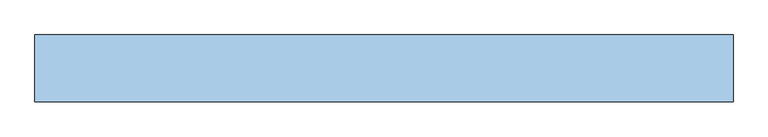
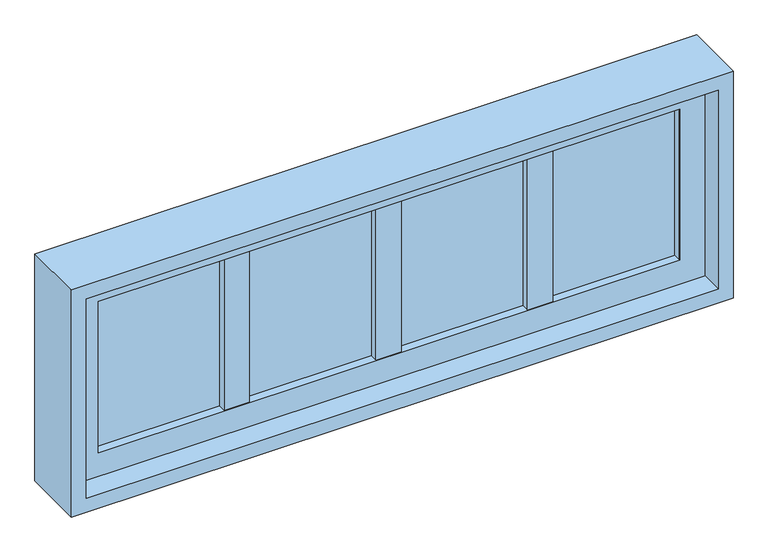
"""IFC4 building model written with IfcOpenShell, lengths in millimetres: window geometry, Janela maxim-ar - PARAMÉTRICA : .4 PAINÉIS - 1.50X0.60 3."""

from ifc_helpers import new_model, si_unit, frame, origin, place, context, project, spatial, polyline, outline, extrude, source, transform, mapped, element, save


def window_3d062184(model_context):
    return source(origin(), model_context, "Body", "SweptSolid", [
        extrude(outline(polyline([(390.0, 18.0), (390.0, -18.0414253), (330.0, -18.0414253), (330.0, 18.0), (390.0, 18.0)])), frame((0.0, 0.0, 835.0), z_axis=(0.0, 0.0, 1.0), x_axis=(1.0, 0.0, 0.0)), (0.0, 0.0, 1.0), 500.0),
        extrude(outline(polyline([(30.0, 18.0), (30.0, -18.0414253), (-30.0, -18.0414253), (-30.0, 18.0), (30.0, 18.0)])), frame((0.0, 0.0, 835.0), z_axis=(0.0, 0.0, 1.0), x_axis=(1.0, 0.0, 0.0)), (0.0, 0.0, 1.0), 500.0),
        extrude(outline(polyline([(-330.0, 18.0), (-330.0, -18.0414253), (-390.0, -18.0414253), (-390.0, 18.0), (-330.0, 18.0)])), frame((0.0, 0.0, 835.0), z_axis=(0.0, 0.0, 1.0), x_axis=(1.0, 0.0, 0.0)), (0.0, 0.0, 1.0), 500.0),
        extrude(outline(polyline([(750.0, 18.0), (750.0, -18.0414253), (690.0, -18.0414253), (690.0, 18.0), (750.0, 18.0)])), frame((0.0, 0.0, 835.0), z_axis=(0.0, 0.0, 1.0), x_axis=(1.0, 0.0, 0.0)), (0.0, 0.0, 1.0), 500.0),
        extrude(outline(polyline([(-690.0, 18.0), (-690.0, -18.0414253), (-750.0, -18.0414253), (-750.0, 18.0), (-690.0, 18.0)])), frame((0.0, 0.0, 835.0), z_axis=(0.0, 0.0, 1.0), x_axis=(1.0, 0.0, 0.0)), (0.0, 0.0, 1.0), 500.0),
        extrude(outline(polyline([(835.0, -750.0), (835.0, 750.0), (1335.0, 750.0), (1335.0, -750.0), (835.0, -750.0)]), holes=[polyline([(1275.0, -690.0), (1275.0, 690.0), (895.0, 690.0), (895.0, -690.0), (1275.0, -690.0)])]), frame((0.0, -20.0, 0.0), z_axis=(0.0, 1.0, 0.0), x_axis=(0.0, 0.0, 1.0)), (0.0, 0.0, 1.0), 40.0),
        extrude(outline(polyline([(800.0, -785.0), (800.0, 785.0), (1370.0, 785.0), (1370.0, -785.0), (800.0, -785.0)]), holes=[polyline([(1335.0, -750.0), (1335.0, 750.0), (835.0, 750.0), (835.0, -750.0), (1335.0, -750.0)])]), frame((0.0, -75.0, 0.0), z_axis=(0.0, 1.0, 0.0), x_axis=(0.0, 0.0, 1.0)), (0.0, 0.0, 1.0), 150.0),
        extrude(outline(polyline([(690.0, 15.0), (690.0, 0.0), (-690.0, 0.0), (-690.0, 15.0), (690.0, 15.0)])), frame((0.0, 0.0, 895.0), z_axis=(0.0, 0.0, 1.0), x_axis=(1.0, 0.0, 0.0)), (0.0, 0.0, 1.0), 380.0),
    ])


if __name__ == "__main__":
    model = new_model("IFC4")
    model_context = context("Model", 3, world=origin())
    ifc_project = project(units=[si_unit("LENGTHUNIT", "METRE", prefix="MILLI")], contexts=[model_context])
    site = spatial("IfcSite", under=ifc_project)
    building = spatial("IfcBuilding", under=site)
    placement = place(None, origin())
    window_shape = window_3d062184(model_context)
    element("IfcWindow", 1, ObjectType="Janela maxim-ar - PARAMÉTRICA : .4 PAINÉIS - 1.50X0.60 3", at=placement, inside=building, context=model_context, shape_type="MappedRepresentation", body=[
        mapped(window_shape, transform((0.0, 0.0, 0.0), x_axis=(1.0, 0.0, 0.0), y_axis=(0.0, 1.0, 0.0), z_axis=(0.0, 0.0, 1.0))),
    ])
    save(model, "model.ifc")
